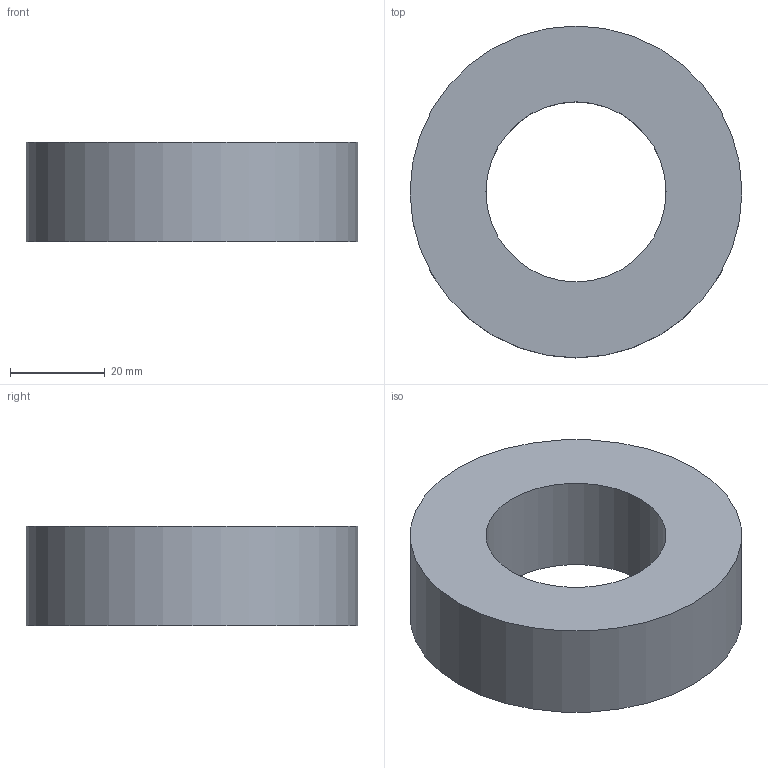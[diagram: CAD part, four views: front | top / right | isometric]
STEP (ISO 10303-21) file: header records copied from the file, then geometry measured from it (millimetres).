
FILE_DESCRIPTION(('Open CASCADE Model'),'2;1');
FILE_NAME('Open CASCADE Shape Model','2026-10-04T02:31:45',('Author'),( 'Open CASCADE'),'Open CASCADE STEP processor 8.0','Open CASCADE 8.0' ,'Unknown');
FILE_SCHEMA(('AUTOMOTIVE_DESIGN { 1 0 10303 214 1 1 1 1 }'));
Length unit declared in the file: millimetre
Products named in the file (1): Open CASCADE STEP translator 8.0 379
Bounding box: 70 x 70 x 21 mm (x, y, z)
Volume: 57001.1 mm3; surface area: 12553.8 mm2
Topology: 1 solids, 1 shells, 4 faces, 6 edges, 4 vertices
Faces by surface type: cylinder 2, plane 2
Full cylindrical faces by diameter (mm): 38 x1, 70 x1
Entity records: 186 total; most frequent: DIRECTION 32, CARTESIAN_POINT 27, ORIENTED_EDGE 12, PCURVE 12, DEFINITIONAL_REPRESENTATION 12, LINE 10, VECTOR 10, AXIS2_PLACEMENT_3D 9
